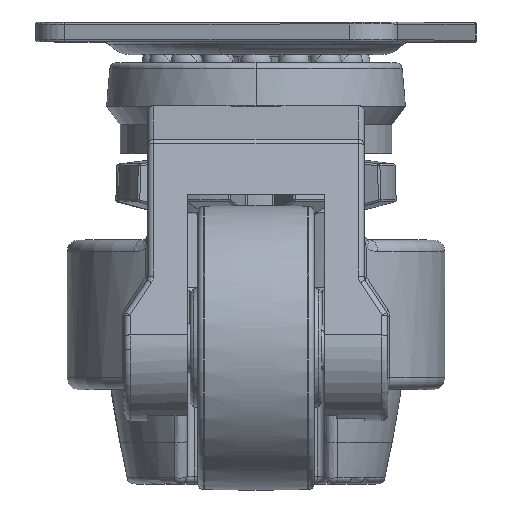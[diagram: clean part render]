
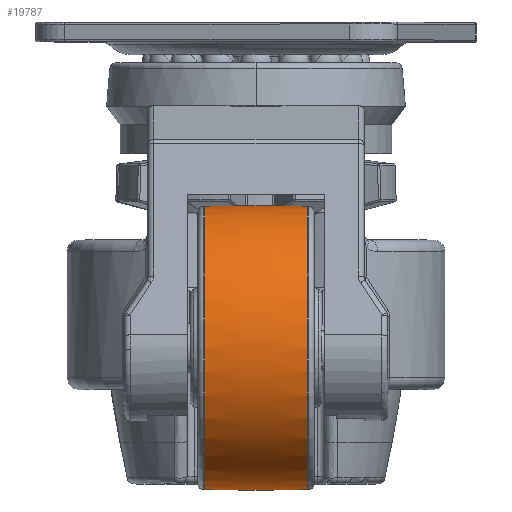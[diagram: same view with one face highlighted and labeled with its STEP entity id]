
A CAD part, top view. The second image highlights one B-rep face of the part: STEP entity #19787.
In plain terms, the highlighted toroidal (fillet/blend) face has major radius 513.905 mm and minor radius 550 mm.
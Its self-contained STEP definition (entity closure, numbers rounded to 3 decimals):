
#2343 = CARTESIAN_POINT ( 'NONE',  ( 13.047, 0., 35.94 ) ) ;
#2794 = EDGE_CURVE ( 'NONE', #48099, #30367, #5200, .T. ) ;
#3101 = CARTESIAN_POINT ( 'NONE',  ( 0., 0., 0. ) ) ;
#3203 = EDGE_CURVE ( 'NONE', #32433, #36544, #32832, .T. ) ;
#5200 = CIRCLE ( 'NONE', #35520, 35.94 ) ;
#6404 = AXIS2_PLACEMENT_3D ( 'NONE', #44405, #12833, #21491 ) ;
#7463 = DIRECTION ( 'NONE',  ( 0., 0., -1. ) ) ;
#8741 = ORIENTED_EDGE ( 'NONE', *, *, #23960, .F. ) ;
#11203 = DIRECTION ( 'NONE',  ( 1., 0., 0. ) ) ;
#12416 = EDGE_LOOP ( 'NONE', ( #8741, #36939, #16757, #35224 ) ) ;
#12833 = DIRECTION ( 'NONE',  ( 0., 1., 0. ) ) ;
#13068 = CARTESIAN_POINT ( 'NONE',  ( 13.047, 0., 0. ) ) ;
#13497 = DIRECTION ( 'NONE',  ( 0., 0., 1. ) ) ;
#15514 = DIRECTION ( 'NONE',  ( 0., 0., -1. ) ) ;
#16083 = FACE_OUTER_BOUND ( 'NONE', #12416, .T. ) ;
#16738 = CIRCLE ( 'NONE', #48863, 550. ) ;
#16757 = ORIENTED_EDGE ( 'NONE', *, *, #25998, .T. ) ;
#19383 = CARTESIAN_POINT ( 'NONE',  ( -13.047, 0., -35.94 ) ) ;
#19787 = ADVANCED_FACE ( 'NONE', ( #16083 ), #52585, .T. ) ;
#21491 = DIRECTION ( 'NONE',  ( 0., 0., 1. ) ) ;
#23960 = EDGE_CURVE ( 'NONE', #30367, #32433, #47747, .T. ) ;
#25998 = EDGE_CURVE ( 'NONE', #48099, #36544, #16738, .T. ) ;
#26138 = DIRECTION ( 'NONE',  ( 0., -1., 0. ) ) ;
#29206 = AXIS2_PLACEMENT_3D ( 'NONE', #13068, #29804, #39504 ) ;
#29804 = DIRECTION ( 'NONE',  ( 1., 0., 0. ) ) ;
#30293 = CARTESIAN_POINT ( 'NONE',  ( -13.047, 0., 35.94 ) ) ;
#30367 = VERTEX_POINT ( 'NONE', #30293 ) ;
#32433 = VERTEX_POINT ( 'NONE', #2343 ) ;
#32832 = CIRCLE ( 'NONE', #29206, 35.94 ) ;
#35224 = ORIENTED_EDGE ( 'NONE', *, *, #3203, .F. ) ;
#35520 = AXIS2_PLACEMENT_3D ( 'NONE', #43360, #47695, #13497 ) ;
#36544 = VERTEX_POINT ( 'NONE', #46263 ) ;
#36939 = ORIENTED_EDGE ( 'NONE', *, *, #2794, .F. ) ;
#39504 = DIRECTION ( 'NONE',  ( 0., 0., -1. ) ) ;
#41567 = AXIS2_PLACEMENT_3D ( 'NONE', #3101, #11203, #15514 ) ;
#43360 = CARTESIAN_POINT ( 'NONE',  ( -13.047, 0., 0. ) ) ;
#44162 = CARTESIAN_POINT ( 'NONE',  ( 0., 0., 513.905 ) ) ;
#44405 = CARTESIAN_POINT ( 'NONE',  ( 0., 0., -513.905 ) ) ;
#46263 = CARTESIAN_POINT ( 'NONE',  ( 13.047, 0., -35.94 ) ) ;
#47695 = DIRECTION ( 'NONE',  ( -1., 0., 0. ) ) ;
#47747 = CIRCLE ( 'NONE', #6404, 550. ) ;
#48099 = VERTEX_POINT ( 'NONE', #19383 ) ;
#48863 = AXIS2_PLACEMENT_3D ( 'NONE', #44162, #26138, #7463 ) ;
#52585 = TOROIDAL_SURFACE ( 'NONE', #41567, -513.905, 550. ) ;
